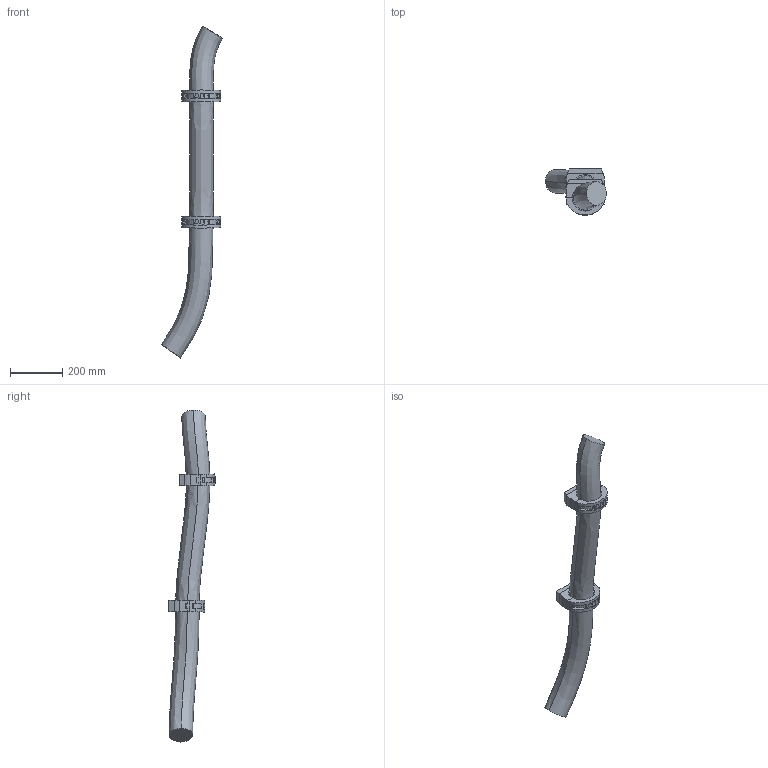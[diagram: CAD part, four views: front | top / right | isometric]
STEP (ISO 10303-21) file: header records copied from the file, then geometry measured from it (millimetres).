
FILE_DESCRIPTION (( 'STEP AP214' ), '1' );
FILE_NAME ('IRB5720-LID-SW_155kg-260_OC_01_LINK02_CABLE.step', '2025-07-08T11:04:06', ( '' ), ( '' ), 'SwSTEP 2.0', 'SolidWorks 2024', '' );
FILE_SCHEMA (( 'AUTOMOTIVE_DESIGN' ));
Length unit declared in the file: millimetre
Products named in the file (1): IRB5720-LID-SW_155kg-260_OC_01_LINK02_CABLE
Bounding box: 233.45 x 177.99 x 1269.28 mm (x, y, z)
Volume: 8829690.7 mm3; surface area: 483879.5 mm2
Topology: 1 solids, 5 shells, 274 faces, 686 edges, 448 vertices
Faces by surface type: plane 152, cylinder 60, cone 32, bspline 22, sphere 8
Entity records: 12883 total; most frequent: CARTESIAN_POINT 3353, ORIENTED_EDGE 1372, DIRECTION 1342, EDGE_CURVE 686, AXIS2_PLACEMENT_3D 501, VERTEX_POINT 448, LINE 340, VECTOR 340
